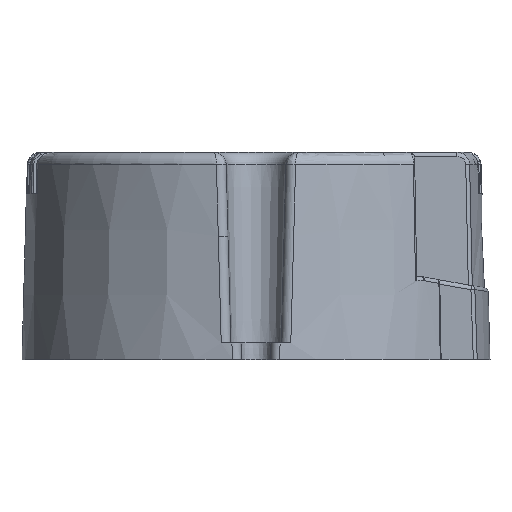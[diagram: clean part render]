
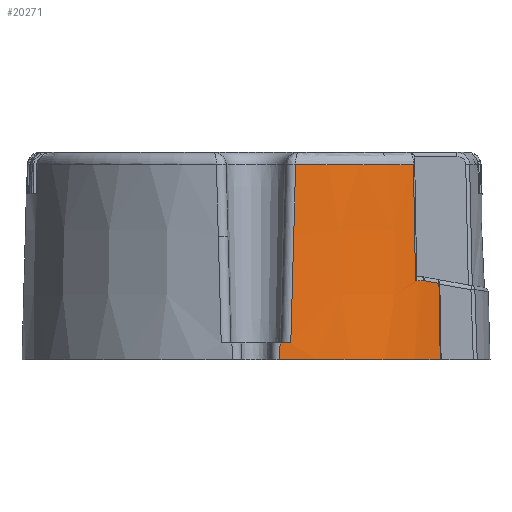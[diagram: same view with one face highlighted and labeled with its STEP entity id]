
A CAD part, left-side view. The second image highlights one B-rep face of the part: STEP entity #20271.
In plain terms, the highlighted conical face has half-angle 1.5 degrees and reference radius 27.942 mm.
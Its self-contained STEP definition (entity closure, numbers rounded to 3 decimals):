
#1339=CARTESIAN_POINT('',(-54.4,-4.057,2.));
#1341=CARTESIAN_POINT('',(-26.5,0.,2.));
#1342=DIRECTION('',(0.,0.,-1.));
#1343=DIRECTION('',(-0.99,-0.144,0.));
#1344=AXIS2_PLACEMENT_3D('',#1341,#1342,#1343);
#1517=CARTESIAN_POINT('',(-26.5,0.,0.));
#1518=DIRECTION('',(0.,0.,1.));
#1519=DIRECTION('',(-0.995,-0.101,0.));
#1520=AXIS2_PLACEMENT_3D('',#1517,#1518,#1519);
#1780=CARTESIAN_POINT('',(-43.918,-22.241,
0.));
#1811=CARTESIAN_POINT('',(-43.726,-22.085,
9.207));
#1812=CARTESIAN_POINT('',(-43.748,-22.102,
8.184));
#1813=CARTESIAN_POINT('',(-43.791,-22.137,
6.138));
#1814=CARTESIAN_POINT('',(-43.854,-22.189,
3.069));
#1815=CARTESIAN_POINT('',(-43.897,-22.224,
1.023));
#1816=CARTESIAN_POINT('',(-43.918,-22.241,
0.));
#1818=CARTESIAN_POINT('',(-54.606,-2.85,
0.));
#1819=CARTESIAN_POINT('',(-54.599,-2.856,
0.221));
#1820=CARTESIAN_POINT('',(-54.586,-2.87,
0.664));
#1821=CARTESIAN_POINT('',(-54.567,-2.886,
1.33));
#1822=CARTESIAN_POINT('',(-54.554,-2.899,
1.776));
#1823=CARTESIAN_POINT('',(-54.548,-2.905,
2.));
#1825=CARTESIAN_POINT('',(-54.396,-4.058,
2.));
#1826=CARTESIAN_POINT('',(-54.396,-4.073,
2.));
#1827=CARTESIAN_POINT('',(-54.395,-4.104,
2.));
#1828=CARTESIAN_POINT('',(-54.392,-4.151,
2.));
#1829=CARTESIAN_POINT('',(-54.388,-4.185,
2.));
#1830=CARTESIAN_POINT('',(-54.385,-4.201,
2.));
#1832=CARTESIAN_POINT('',(-46.559,-19.007,
23.539));
#1833=CARTESIAN_POINT('',(-46.589,-19.035,
21.974));
#1834=CARTESIAN_POINT('',(-46.649,-19.09,
18.847));
#1835=CARTESIAN_POINT('',(-46.741,-19.171,
14.172));
#1836=CARTESIAN_POINT('',(-46.801,-19.226,
11.064));
#1837=CARTESIAN_POINT('',(-46.831,-19.254,
9.513));
#1839=CARTESIAN_POINT('',(-45.813,-20.274,
9.513));
#1840=CARTESIAN_POINT('',(-45.803,-20.284,
9.513));
#1841=CARTESIAN_POINT('',(-45.782,-20.304,
9.513));
#1842=CARTESIAN_POINT('',(-45.751,-20.334,
9.51));
#1843=CARTESIAN_POINT('',(-45.73,-20.353,
9.507));
#1844=CARTESIAN_POINT('',(-45.72,-20.363,
9.505));
#1846=CARTESIAN_POINT('',(-54.606,-2.85,
0.));
#1926=CARTESIAN_POINT('',(-53.718,-4.783,
23.539));
#1927=CARTESIAN_POINT('',(-53.748,-4.757,
22.588));
#1928=CARTESIAN_POINT('',(-53.807,-4.706,
20.677));
#1929=CARTESIAN_POINT('',(-53.896,-4.633,
17.786));
#1930=CARTESIAN_POINT('',(-53.956,-4.579,
15.844));
#1931=CARTESIAN_POINT('',(-53.986,-4.552,
14.868));
#1933=CARTESIAN_POINT('',(-53.986,-4.552,
14.868));
#1934=CARTESIAN_POINT('',(-54.03,-4.511,
13.464));
#1935=CARTESIAN_POINT('',(-54.118,-4.432,
10.639));
#1936=CARTESIAN_POINT('',(-54.25,-4.325,
6.349));
#1937=CARTESIAN_POINT('',(-54.34,-4.243,
3.456));
#1938=CARTESIAN_POINT('',(-54.385,-4.201,
2.));
#2036=CARTESIAN_POINT('',(-26.5,0.,23.539));
#2037=DIRECTION('',(0.,0.,-1.));
#2038=DIRECTION('',(-0.726,-0.688,0.));
#2039=AXIS2_PLACEMENT_3D('',#2036,#2037,#2038);
#13722=CARTESIAN_POINT('',(-26.5,0.,9.513));
#13723=DIRECTION('',(0.,0.,-1.));
#13724=DIRECTION('',(-0.69,-0.724,0.));
#13725=AXIS2_PLACEMENT_3D('',#13722,#13723,#13724);
#13848=CARTESIAN_POINT('',(-43.726,-22.085,
9.207));
#13849=CARTESIAN_POINT('',(-43.899,-21.949,
9.231));
#13850=CARTESIAN_POINT('',(-44.242,-21.674,
9.278));
#13851=CARTESIAN_POINT('',(-44.746,-21.249,
9.352));
#13852=CARTESIAN_POINT('',(-45.239,-20.813,
9.428));
#13853=CARTESIAN_POINT('',(-45.561,-20.514,
9.479));
#13854=CARTESIAN_POINT('',(-45.72,-20.363,
9.505));
#17074=VERTEX_POINT('',#1339);
#17075=CARTESIAN_POINT('',(-54.548,-2.905,2.));
#17076=VERTEX_POINT('',#17075);
#17092=VERTEX_POINT('',#1780);
#17134=VERTEX_POINT('',#1846);
#17250=VERTEX_POINT('',#1811);
#17252=VERTEX_POINT('',#1830);
#17253=VERTEX_POINT('',#1933);
#17254=VERTEX_POINT('',#1926);
#17255=CARTESIAN_POINT('',(-46.559,-19.007,
23.539));
#17256=VERTEX_POINT('',#17255);
#17257=VERTEX_POINT('',#1837);
#17258=CARTESIAN_POINT('',(-45.813,-20.274,
9.513));
#17259=VERTEX_POINT('',#17258);
#17260=VERTEX_POINT('',#1844);
#20243=CARTESIAN_POINT('',(-26.5,0.,11.77));
#20244=DIRECTION('',(0.,0.,-1.));
#20245=DIRECTION('',(0.,-1.,0.));
#20246=AXIS2_PLACEMENT_3D('',#20243,#20244,#20245);
#20247=CONICAL_SURFACE('',#20246,27.942,1.5);
#20248=ORIENTED_EDGE('',*,*,#20234,.T.);
#20249=ORIENTED_EDGE('',*,*,#20099,.F.);
#20251=ORIENTED_EDGE('',*,*,#20250,.T.);
#20252=ORIENTED_EDGE('',*,*,#19982,.F.);
#20254=ORIENTED_EDGE('',*,*,#20253,.T.);
#20256=ORIENTED_EDGE('',*,*,#20255,.F.);
#20258=ORIENTED_EDGE('',*,*,#20257,.F.);
#20260=ORIENTED_EDGE('',*,*,#20259,.F.);
#20262=ORIENTED_EDGE('',*,*,#20261,.T.);
#20264=ORIENTED_EDGE('',*,*,#20263,.F.);
#20266=ORIENTED_EDGE('',*,*,#20265,.T.);
#20268=ORIENTED_EDGE('',*,*,#20267,.F.);
#20269=EDGE_LOOP('',(#20248,#20249,#20251,#20252,#20254,#20256,#20258,#20260,
#20262,#20264,#20266,#20268));
#20270=FACE_OUTER_BOUND('',#20269,.F.);
#20271=ADVANCED_FACE('',(#20270),#20247,.T.);
#1345=CIRCLE('',#1344,28.198);
#1521=CIRCLE('',#1520,28.25);
#1817=B_SPLINE_CURVE_WITH_KNOTS('',3,(#1811,#1812,#1813,#1814,#1815,#1816),
.UNSPECIFIED.,.F.,.F.,(4,1,1,4),(0.,0.333,0.667,1.),
.UNSPECIFIED.);
#1824=B_SPLINE_CURVE_WITH_KNOTS('',3,(#1818,#1819,#1820,#1821,#1822,#1823),
.UNSPECIFIED.,.F.,.F.,(4,1,1,4),(0.,0.333,0.667,1.),
.UNSPECIFIED.);
#1831=B_SPLINE_CURVE_WITH_KNOTS('',3,(#1825,#1826,#1827,#1828,#1829,#1830),
.UNSPECIFIED.,.F.,.F.,(4,1,1,4),(0.,0.333,0.667,1.),
.UNSPECIFIED.);
#1838=B_SPLINE_CURVE_WITH_KNOTS('',3,(#1832,#1833,#1834,#1835,#1836,#1837),
.UNSPECIFIED.,.F.,.F.,(4,1,1,4),(0.,0.333,0.667,1.),
.UNSPECIFIED.);
#1845=B_SPLINE_CURVE_WITH_KNOTS('',3,(#1839,#1840,#1841,#1842,#1843,#1844),
.UNSPECIFIED.,.F.,.F.,(4,1,1,4),(0.,0.334,0.667,1.),
.UNSPECIFIED.);
#1932=B_SPLINE_CURVE_WITH_KNOTS('',3,(#1926,#1927,#1928,#1929,#1930,#1931),
.UNSPECIFIED.,.F.,.F.,(4,1,1,4),(0.,0.333,0.667,1.),
.UNSPECIFIED.);
#1939=B_SPLINE_CURVE_WITH_KNOTS('',3,(#1933,#1934,#1935,#1936,#1937,#1938),
.UNSPECIFIED.,.F.,.F.,(4,1,1,4),(0.,0.333,0.667,1.),
.UNSPECIFIED.);
#2040=CIRCLE('',#2039,27.634);
#13726=CIRCLE('',#13725,28.001);
#13855=B_SPLINE_CURVE_WITH_KNOTS('',3,(#13848,#13849,#13850,#13851,#13852,
#13853,#13854),.UNSPECIFIED.,.F.,.F.,(4,1,1,1,4),(0.,0.25,0.5,0.75,
1.),.UNSPECIFIED.);
#19982=EDGE_CURVE('',#17074,#17076,#1345,.T.);
#20099=EDGE_CURVE('',#17134,#17092,#1521,.T.);
#20234=EDGE_CURVE('',#17250,#17092,#1817,.T.);
#20250=EDGE_CURVE('',#17134,#17076,#1824,.T.);
#20253=EDGE_CURVE('',#17074,#17252,#1831,.T.);
#20255=EDGE_CURVE('',#17253,#17252,#1939,.T.);
#20257=EDGE_CURVE('',#17254,#17253,#1932,.T.);
#20259=EDGE_CURVE('',#17256,#17254,#2040,.T.);
#20261=EDGE_CURVE('',#17256,#17257,#1838,.T.);
#20263=EDGE_CURVE('',#17259,#17257,#13726,.T.);
#20265=EDGE_CURVE('',#17259,#17260,#1845,.T.);
#20267=EDGE_CURVE('',#17250,#17260,#13855,.T.);
